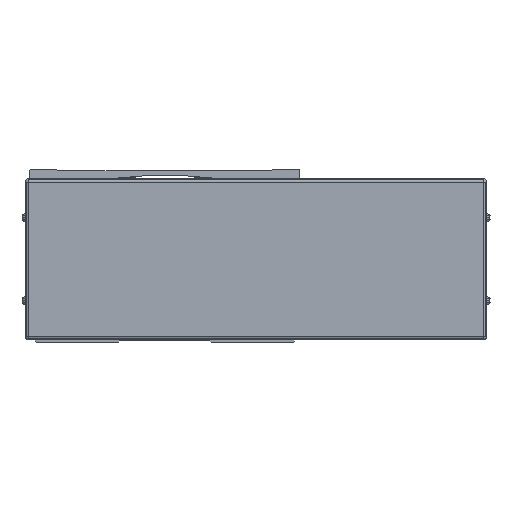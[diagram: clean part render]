
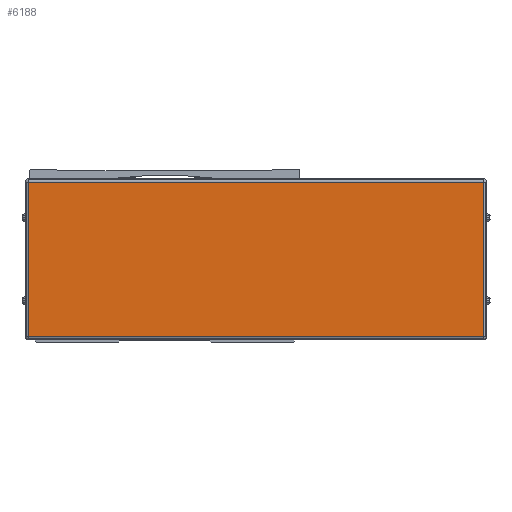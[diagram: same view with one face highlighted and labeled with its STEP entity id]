
A CAD part, front view. The second image highlights one B-rep face of the part: STEP entity #6188.
In plain terms, the highlighted planar face has unit normal (0, -1, 0).
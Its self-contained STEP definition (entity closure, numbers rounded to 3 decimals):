
#6188=ADVANCED_FACE('',(#13574),#13575,.T.);
#13574=FACE_OUTER_BOUND('',#23536,.T.);
#13575=PLANE('',#23537);
#23536=EDGE_LOOP('',(#42491,#42492,#42493,#42494));
#23537=AXIS2_PLACEMENT_3D('',#42495,#42496,#42497);
#42491=ORIENTED_EDGE('',*,*,#60496,.F.);
#42492=ORIENTED_EDGE('',*,*,#55965,.F.);
#42493=ORIENTED_EDGE('',*,*,#60497,.F.);
#42494=ORIENTED_EDGE('',*,*,#58285,.F.);
#42495=CARTESIAN_POINT('',(-545.,-472.778,-2.));
#42496=DIRECTION('',(0.,-1.0,0.));
#42497=DIRECTION('',(1.0,0.,0.));
#55965=EDGE_CURVE('',#67936,#63610,#67938,.T.);
#58285=EDGE_CURVE('',#71631,#71633,#71634,.T.);
#60496=EDGE_CURVE('',#63610,#71631,#74649,.T.);
#60497=EDGE_CURVE('',#71633,#67936,#74650,.T.);
#63610=VERTEX_POINT('',#78331);
#67936=VERTEX_POINT('',#85057);
#67938=LINE('',#85059,#85060);
#71631=VERTEX_POINT('',#90835);
#71633=VERTEX_POINT('',#90837);
#71634=LINE('',#90838,#90839);
#74649=LINE('',#95221,#95222);
#74650=LINE('',#95223,#95224);
#78331=CARTESIAN_POINT('',(-682.1,-472.778,44.5));
#85057=CARTESIAN_POINT('',(-682.1,-472.778,-48.5));
#85059=CARTESIAN_POINT('',(-682.1,-472.778,-2.));
#85060=VECTOR('',#102921,10.0);
#90835=CARTESIAN_POINT('',(-407.9,-472.778,44.5));
#90837=CARTESIAN_POINT('',(-407.9,-472.778,-48.5));
#90838=CARTESIAN_POINT('',(-407.9,-472.778,-2.));
#90839=VECTOR('',#105909,10.0);
#95221=CARTESIAN_POINT('',(-545.,-472.778,44.5));
#95222=VECTOR('',#108525,10.0);
#95223=CARTESIAN_POINT('',(-545.,-472.778,-48.5));
#95224=VECTOR('',#108526,10.0);
#102921=DIRECTION('',(0.,0.,1.0));
#105909=DIRECTION('',(0.,0.,-1.0));
#108525=DIRECTION('',(1.0,0.,0.));
#108526=DIRECTION('',(-1.0,0.,0.));
